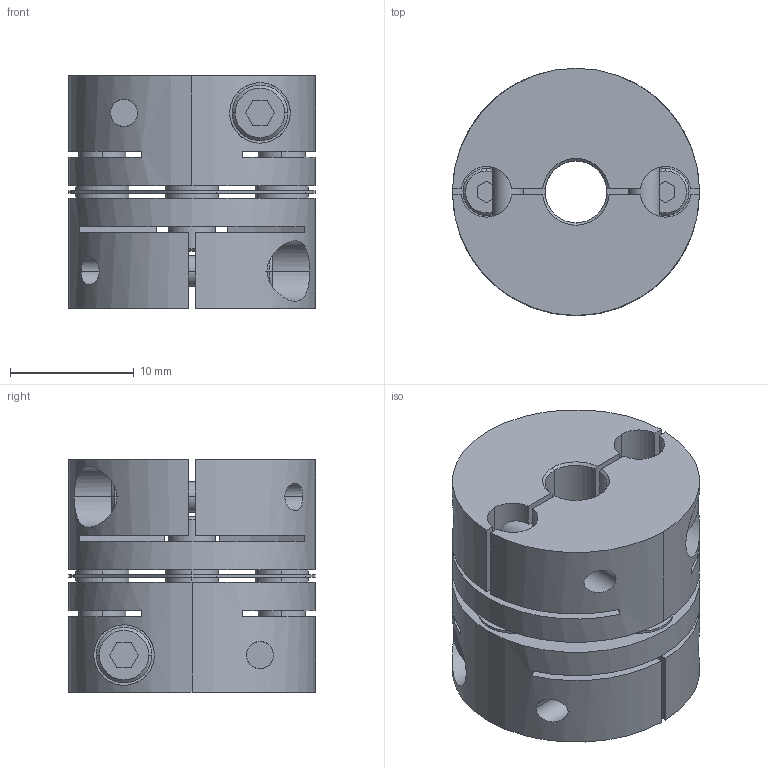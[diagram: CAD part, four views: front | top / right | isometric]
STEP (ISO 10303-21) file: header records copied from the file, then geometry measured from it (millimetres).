
FILE_DESCRIPTION((''),'2;1');
FILE_NAME('LAS-20C-5×6.35.stp','2014-02-05T09:31:30',(''),(''),'AutoCAD STEP 2000i','AutoCAD 2000i',', , ');
FILE_SCHEMA(('CONFIG_CONTROL_DESIGN'));
Length unit declared in the file: millimetre
Products named in the file (5): LAS-20C-4×4; 忣兜1; LA-2002-D04-1; LA-2002-D04; LAS20-ITA
Assembly tree (4 placements, depth 2):
  LAS-20C-4×4
    忣兜1
    LA-2002-D04-1
    LA-2002-D04
    LAS20-ITA
Bounding box: 20 x 20 x 18.8 mm (x, y, z)
Volume: 4553.8 mm3; surface area: 4543.9 mm2
Topology: 1 solids, 1 shells, 236 faces, 624 edges, 408 vertices
Faces by surface type: plane 112, cylinder 96, cone 28
Entity records: 8203 total; most frequent: CARTESIAN_POINT 2009, DIRECTION 1302, ORIENTED_EDGE 1248, EDGE_CURVE 624, AXIS2_PLACEMENT_3D 477, VERTEX_POINT 408, VECTOR 348, LINE 348
